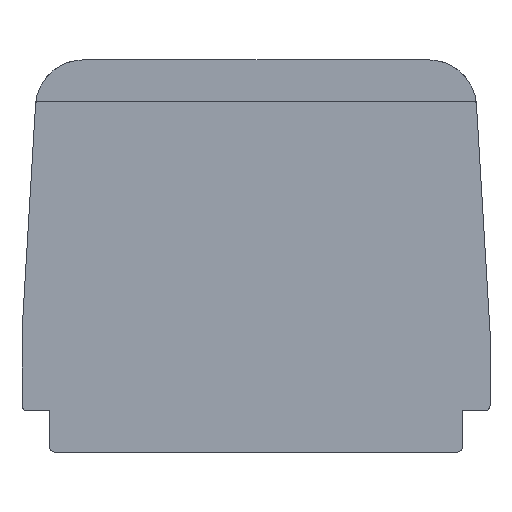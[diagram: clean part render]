
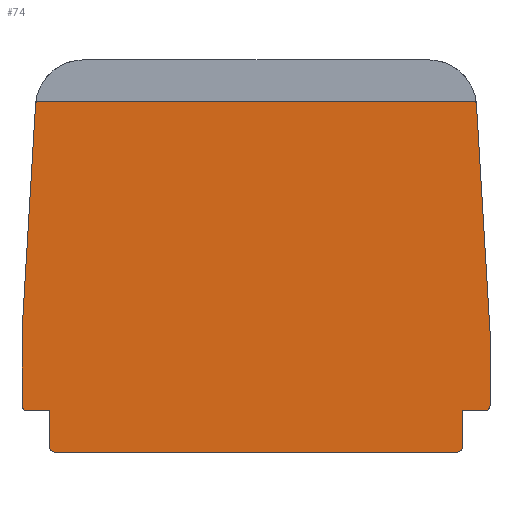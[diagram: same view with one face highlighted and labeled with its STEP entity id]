
A CAD part, top view. The second image highlights one B-rep face of the part: STEP entity #74.
In plain terms, the highlighted planar face has unit normal (0, 0, 1).
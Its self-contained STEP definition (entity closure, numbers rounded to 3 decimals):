
#10 = CARTESIAN_POINT ( 'NONE',  ( 29.2, 0.8, 1.6 ) ) ;
#12 = DIRECTION ( 'NONE',  ( -1., 0., 0. ) ) ;
#25 = DIRECTION ( 'NONE',  ( 0., 0., 1. ) ) ;
#26 = DIRECTION ( 'NONE',  ( 0., 0., 1. ) ) ;
#29 = AXIS2_PLACEMENT_3D ( 'NONE', #436, #625, #424 ) ;
#31 = DIRECTION ( 'NONE',  ( 0., 0., 1. ) ) ;
#34 = CARTESIAN_POINT ( 'NONE',  ( -29.2, 0.8, 1.6 ) ) ;
#38 = CARTESIAN_POINT ( 'NONE',  ( -33.2, 6.8, 1.6 ) ) ;
#45 = DIRECTION ( 'NONE',  ( -1., 0., 0. ) ) ;
#46 = ORIENTED_EDGE ( 'NONE', *, *, #223, .T. ) ;
#69 = DIRECTION ( 'NONE',  ( -1., 0., 0. ) ) ;
#73 = VERTEX_POINT ( 'NONE', #1017 ) ;
#74 = ADVANCED_FACE ( 'NONE', ( #747 ), #411, .F. ) ;
#80 = DIRECTION ( 'NONE',  ( -1., 0., 0. ) ) ;
#81 = CARTESIAN_POINT ( 'NONE',  ( -31.626, 50.6, 1.6 ) ) ;
#83 = DIRECTION ( 'NONE',  ( 0., 0., 1. ) ) ;
#86 = CARTESIAN_POINT ( 'NONE',  ( 30., 0.8, 1.6 ) ) ;
#116 = DIRECTION ( 'NONE',  ( 0., 0., 1. ) ) ;
#135 = DIRECTION ( 'NONE',  ( -1., 0., 0. ) ) ;
#138 = CARTESIAN_POINT ( 'NONE',  ( -25.053, 51., 1.6 ) ) ;
#140 = DIRECTION ( 'NONE',  ( 1., 0., 0. ) ) ;
#142 = DIRECTION ( 'NONE',  ( 1., 0., 0. ) ) ;
#153 = DIRECTION ( 'NONE',  ( 0., -1., 0. ) ) ;
#155 = EDGE_CURVE ( 'NONE', #634, #859, #672, .T. ) ;
#157 = ORIENTED_EDGE ( 'NONE', *, *, #291, .T. ) ;
#174 = CARTESIAN_POINT ( 'NONE',  ( 31.626, 50.6, 1.6 ) ) ;
#176 = EDGE_CURVE ( 'NONE', #963, #267, #620, .T. ) ;
#180 = EDGE_CURVE ( 'NONE', #297, #634, #598, .T. ) ;
#189 = EDGE_CURVE ( 'NONE', #944, #574, #595, .T. ) ;
#202 = EDGE_CURVE ( 'NONE', #667, #480, #546, .T. ) ;
#205 = CIRCLE ( 'NONE', #988, 7. ) ;
#223 = EDGE_CURVE ( 'NONE', #267, #73, #520, .T. ) ;
#231 = DIRECTION ( 'NONE',  ( -0.059, 0.998, 0. ) ) ;
#237 = CARTESIAN_POINT ( 'NONE',  ( 30., 6., 1.6 ) ) ;
#246 = CARTESIAN_POINT ( 'NONE',  ( -30., 0., 1.6 ) ) ;
#251 = EDGE_CURVE ( 'NONE', #958, #963, #482, .T. ) ;
#264 = EDGE_CURVE ( 'NONE', #1040, #1021, #459, .T. ) ;
#267 = VERTEX_POINT ( 'NONE', #842 ) ;
#279 = EDGE_CURVE ( 'NONE', #1021, #353, #435, .T. ) ;
#281 = EDGE_CURVE ( 'NONE', #579, #667, #437, .T. ) ;
#289 = EDGE_CURVE ( 'NONE', #73, #861, #422, .T. ) ;
#291 = EDGE_CURVE ( 'NONE', #861, #772, #401, .T. ) ;
#297 = VERTEX_POINT ( 'NONE', #86 ) ;
#300 = EDGE_CURVE ( 'NONE', #772, #1044, #403, .T. ) ;
#302 = EDGE_CURVE ( 'NONE', #353, #579, #410, .T. ) ;
#305 = EDGE_CURVE ( 'NONE', #480, #944, #389, .T. ) ;
#307 = DIRECTION ( 'NONE',  ( 1., 0., 0. ) ) ;
#309 = EDGE_CURVE ( 'NONE', #574, #297, #390, .T. ) ;
#314 = EDGE_CURVE ( 'NONE', #859, #958, #387, .T. ) ;
#353 = VERTEX_POINT ( 'NONE', #936 ) ;
#387 = CIRCLE ( 'NONE', #1023, 0.8 ) ;
#389 = CIRCLE ( 'NONE', #1030, 0.8 ) ;
#390 = CIRCLE ( 'NONE', #1029, 0.8 ) ;
#394 = ORIENTED_EDGE ( 'NONE', *, *, #251, .T. ) ;
#399 = VECTOR ( 'NONE', #69, 1000. ) ;
#401 = LINE ( 'NONE', #138, #399 ) ;
#403 = CIRCLE ( 'NONE', #1036, 0.4 ) ;
#410 = CIRCLE ( 'NONE', #1032, 0.8 ) ;
#411 = PLANE ( 'NONE',  #29 ) ;
#412 = EDGE_CURVE ( 'NONE', #1044, #1040, #205, .T. ) ;
#416 = DIRECTION ( 'NONE',  ( 0., 1., 0. ) ) ;
#420 = VECTOR ( 'NONE', #903, 1000. ) ;
#422 = CIRCLE ( 'NONE', #1043, 0.4 ) ;
#423 = VECTOR ( 'NONE', #856, 1000. ) ;
#424 = DIRECTION ( 'NONE',  ( -1., 0., 0. ) ) ;
#435 = LINE ( 'NONE', #847, #423 ) ;
#436 = CARTESIAN_POINT ( 'NONE',  ( -25.053, 50., 1.6 ) ) ;
#437 = LINE ( 'NONE', #817, #420 ) ;
#446 = VECTOR ( 'NONE', #827, 1000. ) ;
#459 = LINE ( 'NONE', #837, #446 ) ;
#469 = VECTOR ( 'NONE', #784, 1000. ) ;
#480 = VERTEX_POINT ( 'NONE', #714 ) ;
#482 = LINE ( 'NONE', #798, #469 ) ;
#496 = CARTESIAN_POINT ( 'NONE',  ( -30., 0., 1.6 ) ) ;
#520 = CIRCLE ( 'NONE', #1081, 7. ) ;
#528 = CARTESIAN_POINT ( 'NONE',  ( 30., 0., 1.6 ) ) ;
#539 = VECTOR ( 'NONE', #153, 1000. ) ;
#540 = CARTESIAN_POINT ( 'NONE',  ( 25.053, 50., 1.6 ) ) ;
#546 = LINE ( 'NONE', #246, #539 ) ;
#574 = VERTEX_POINT ( 'NONE', #719 ) ;
#575 = VECTOR ( 'NONE', #142, 1000. ) ;
#579 = VERTEX_POINT ( 'NONE', #708 ) ;
#585 = VECTOR ( 'NONE', #416, 1000. ) ;
#595 = LINE ( 'NONE', #496, #575 ) ;
#598 = LINE ( 'NONE', #528, #585 ) ;
#599 = DIRECTION ( 'NONE',  ( 0., 0., 1. ) ) ;
#607 = VECTOR ( 'NONE', #231, 1000. ) ;
#614 = CARTESIAN_POINT ( 'NONE',  ( -32.041, 50.416, 1.6 ) ) ;
#620 = LINE ( 'NONE', #746, #607 ) ;
#625 = DIRECTION ( 'NONE',  ( 0., 0., -1. ) ) ;
#634 = VERTEX_POINT ( 'NONE', #727 ) ;
#636 = CARTESIAN_POINT ( 'NONE',  ( -32.024, 50.636, 1.6 ) ) ;
#638 = CARTESIAN_POINT ( 'NONE',  ( 34., 17.5, 1.6 ) ) ;
#639 = CARTESIAN_POINT ( 'NONE',  ( 34., 6.8, 1.6 ) ) ;
#645 = VECTOR ( 'NONE', #307, 1000. ) ;
#647 = CARTESIAN_POINT ( 'NONE',  ( -29.2, 0., 1.6 ) ) ;
#649 = CARTESIAN_POINT ( 'NONE',  ( -34., 17.5, 1.6 ) ) ;
#665 = CARTESIAN_POINT ( 'NONE',  ( 31.626, 51., 1.6 ) ) ;
#667 = VERTEX_POINT ( 'NONE', #677 ) ;
#672 = LINE ( 'NONE', #237, #645 ) ;
#674 = CARTESIAN_POINT ( 'NONE',  ( 33.2, 6., 1.6 ) ) ;
#676 = CARTESIAN_POINT ( 'NONE',  ( -31.626, 51., 1.6 ) ) ;
#677 = CARTESIAN_POINT ( 'NONE',  ( -30., 6., 1.6 ) ) ;
#708 = CARTESIAN_POINT ( 'NONE',  ( -33.2, 6., 1.6 ) ) ;
#714 = CARTESIAN_POINT ( 'NONE',  ( -30., 0.8, 1.6 ) ) ;
#719 = CARTESIAN_POINT ( 'NONE',  ( 29.2, 0., 1.6 ) ) ;
#727 = CARTESIAN_POINT ( 'NONE',  ( 30., 6., 1.6 ) ) ;
#746 = CARTESIAN_POINT ( 'NONE',  ( 34., 17.5, 1.6 ) ) ;
#747 = FACE_OUTER_BOUND ( 'NONE', #1082, .T. ) ;
#772 = VERTEX_POINT ( 'NONE', #676 ) ;
#784 = DIRECTION ( 'NONE',  ( 0., 1., 0. ) ) ;
#795 = DIRECTION ( 'NONE',  ( -1., 0., 0. ) ) ;
#797 = DIRECTION ( 'NONE',  ( 0., 0., 1. ) ) ;
#798 = CARTESIAN_POINT ( 'NONE',  ( 34., 17.5, 1.6 ) ) ;
#800 = CARTESIAN_POINT ( 'NONE',  ( -25.053, 50., 1.6 ) ) ;
#817 = CARTESIAN_POINT ( 'NONE',  ( -30., 6., 1.6 ) ) ;
#827 = DIRECTION ( 'NONE',  ( -0.059, -0.998, 0. ) ) ;
#834 = ORIENTED_EDGE ( 'NONE', *, *, #279, .T. ) ;
#837 = CARTESIAN_POINT ( 'NONE',  ( -34., 17.5, 1.6 ) ) ;
#842 = CARTESIAN_POINT ( 'NONE',  ( 32.041, 50.416, 1.6 ) ) ;
#845 = ORIENTED_EDGE ( 'NONE', *, *, #264, .T. ) ;
#847 = CARTESIAN_POINT ( 'NONE',  ( -34., 17.5, 1.6 ) ) ;
#848 = ORIENTED_EDGE ( 'NONE', *, *, #289, .T. ) ;
#856 = DIRECTION ( 'NONE',  ( 0., -1., 0. ) ) ;
#859 = VERTEX_POINT ( 'NONE', #674 ) ;
#861 = VERTEX_POINT ( 'NONE', #665 ) ;
#883 = ORIENTED_EDGE ( 'NONE', *, *, #302, .T. ) ;
#893 = ORIENTED_EDGE ( 'NONE', *, *, #281, .T. ) ;
#899 = ORIENTED_EDGE ( 'NONE', *, *, #202, .T. ) ;
#903 = DIRECTION ( 'NONE',  ( 1., 0., 0. ) ) ;
#910 = ORIENTED_EDGE ( 'NONE', *, *, #305, .T. ) ;
#914 = ORIENTED_EDGE ( 'NONE', *, *, #412, .T. ) ;
#930 = ORIENTED_EDGE ( 'NONE', *, *, #300, .T. ) ;
#936 = CARTESIAN_POINT ( 'NONE',  ( -34., 6.8, 1.6 ) ) ;
#944 = VERTEX_POINT ( 'NONE', #647 ) ;
#948 = ORIENTED_EDGE ( 'NONE', *, *, #189, .T. ) ;
#958 = VERTEX_POINT ( 'NONE', #639 ) ;
#962 = ORIENTED_EDGE ( 'NONE', *, *, #309, .T. ) ;
#963 = VERTEX_POINT ( 'NONE', #638 ) ;
#965 = ORIENTED_EDGE ( 'NONE', *, *, #180, .T. ) ;
#966 = ORIENTED_EDGE ( 'NONE', *, *, #314, .T. ) ;
#984 = ORIENTED_EDGE ( 'NONE', *, *, #176, .T. ) ;
#988 = AXIS2_PLACEMENT_3D ( 'NONE', #800, #797, #795 ) ;
#1017 = CARTESIAN_POINT ( 'NONE',  ( 32.024, 50.636, 1.6 ) ) ;
#1021 = VERTEX_POINT ( 'NONE', #649 ) ;
#1023 = AXIS2_PLACEMENT_3D ( 'NONE', #1079, #1071, #1068 ) ;
#1029 = AXIS2_PLACEMENT_3D ( 'NONE', #10, #31, #1093 ) ;
#1030 = AXIS2_PLACEMENT_3D ( 'NONE', #34, #26, #12 ) ;
#1032 = AXIS2_PLACEMENT_3D ( 'NONE', #38, #25, #45 ) ;
#1036 = AXIS2_PLACEMENT_3D ( 'NONE', #81, #83, #80 ) ;
#1040 = VERTEX_POINT ( 'NONE', #614 ) ;
#1043 = AXIS2_PLACEMENT_3D ( 'NONE', #174, #116, #135 ) ;
#1044 = VERTEX_POINT ( 'NONE', #636 ) ;
#1054 = ORIENTED_EDGE ( 'NONE', *, *, #155, .T. ) ;
#1068 = DIRECTION ( 'NONE',  ( -1., 0., 0. ) ) ;
#1071 = DIRECTION ( 'NONE',  ( 0., 0., 1. ) ) ;
#1079 = CARTESIAN_POINT ( 'NONE',  ( 33.2, 6.8, 1.6 ) ) ;
#1081 = AXIS2_PLACEMENT_3D ( 'NONE', #540, #599, #140 ) ;
#1082 = EDGE_LOOP ( 'NONE', ( #46, #848, #157, #930, #914, #845, #834, #883, #893, #899, #910, #948, #962, #965, #1054, #966, #394, #984 ) ) ;
#1093 = DIRECTION ( 'NONE',  ( -1., 0., 0. ) ) ;
